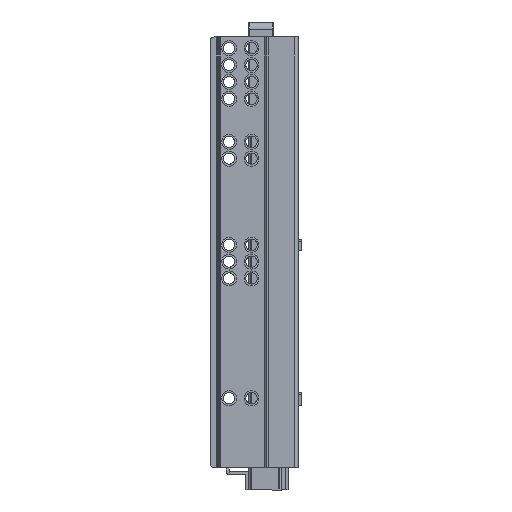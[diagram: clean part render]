
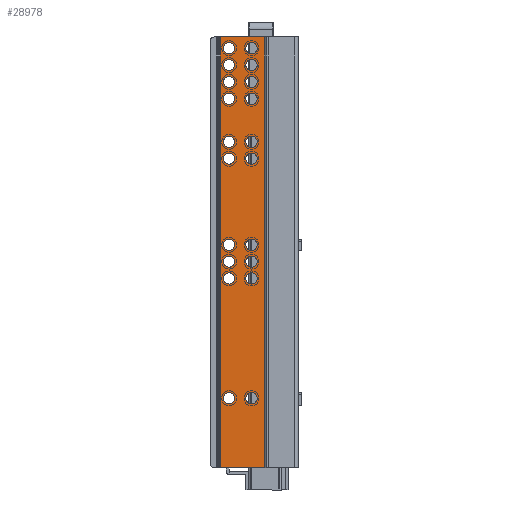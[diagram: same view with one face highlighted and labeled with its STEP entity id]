
A CAD part, left-side view. The second image highlights one B-rep face of the part: STEP entity #28978.
In plain terms, the highlighted planar face has unit normal (-1, 0, 0).
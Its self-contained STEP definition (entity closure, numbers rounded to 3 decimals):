
#837=FACE_BOUND('',#5971,.T.);
#838=FACE_BOUND('',#5972,.T.);
#839=FACE_BOUND('',#5973,.T.);
#840=FACE_BOUND('',#5974,.T.);
#841=FACE_BOUND('',#5975,.T.);
#842=FACE_BOUND('',#5976,.T.);
#843=FACE_BOUND('',#5977,.T.);
#844=FACE_BOUND('',#5978,.T.);
#845=FACE_BOUND('',#5979,.T.);
#846=FACE_BOUND('',#5980,.T.);
#847=FACE_BOUND('',#5981,.T.);
#848=FACE_BOUND('',#5982,.T.);
#849=FACE_BOUND('',#5983,.T.);
#850=FACE_BOUND('',#5984,.T.);
#851=FACE_BOUND('',#5985,.T.);
#852=FACE_BOUND('',#5986,.T.);
#853=FACE_BOUND('',#5987,.T.);
#854=FACE_BOUND('',#5988,.T.);
#855=FACE_BOUND('',#5989,.T.);
#856=FACE_BOUND('',#5990,.T.);
#1108=CIRCLE('',#30845,3.);
#1111=CIRCLE('',#30850,3.);
#1114=CIRCLE('',#30855,3.);
#1117=CIRCLE('',#30860,3.);
#1120=CIRCLE('',#30865,3.);
#1123=CIRCLE('',#30870,3.);
#1126=CIRCLE('',#30875,3.);
#1129=CIRCLE('',#30880,3.);
#1132=CIRCLE('',#30885,3.);
#1135=CIRCLE('',#30890,3.);
#1138=CIRCLE('',#30895,3.);
#1141=CIRCLE('',#30900,3.);
#1144=CIRCLE('',#30905,3.);
#1147=CIRCLE('',#30910,3.);
#1150=CIRCLE('',#30915,3.);
#1153=CIRCLE('',#30920,3.);
#1156=CIRCLE('',#30925,3.);
#1159=CIRCLE('',#30930,3.);
#1162=CIRCLE('',#30935,3.);
#1165=CIRCLE('',#30940,3.);
#4076=FACE_OUTER_BOUND('',#5970,.T.);
#5970=EDGE_LOOP('',(#18675,#18676,#18677,#18678));
#5971=EDGE_LOOP('',(#18679));
#5972=EDGE_LOOP('',(#18680));
#5973=EDGE_LOOP('',(#18681));
#5974=EDGE_LOOP('',(#18682));
#5975=EDGE_LOOP('',(#18683));
#5976=EDGE_LOOP('',(#18684));
#5977=EDGE_LOOP('',(#18685));
#5978=EDGE_LOOP('',(#18686));
#5979=EDGE_LOOP('',(#18687));
#5980=EDGE_LOOP('',(#18688));
#5981=EDGE_LOOP('',(#18689));
#5982=EDGE_LOOP('',(#18690));
#5983=EDGE_LOOP('',(#18691));
#5984=EDGE_LOOP('',(#18692));
#5985=EDGE_LOOP('',(#18693));
#5986=EDGE_LOOP('',(#18694));
#5987=EDGE_LOOP('',(#18695));
#5988=EDGE_LOOP('',(#18696));
#5989=EDGE_LOOP('',(#18697));
#5990=EDGE_LOOP('',(#18698));
#8052=LINE('',#44872,#9962);
#8059=LINE('',#45057,#9969);
#8072=LINE('',#45101,#9982);
#8082=LINE('',#45118,#9992);
#9962=VECTOR('',#34953,23.586);
#9969=VECTOR('',#35180,230.);
#9982=VECTOR('',#35219,23.586);
#9992=VECTOR('',#35243,230.);
#11874=VERTEX_POINT('',#44869);
#11875=VERTEX_POINT('',#44871);
#11884=VERTEX_POINT('',#44898);
#11887=VERTEX_POINT('',#44906);
#11890=VERTEX_POINT('',#44914);
#11893=VERTEX_POINT('',#44922);
#11896=VERTEX_POINT('',#44930);
#11899=VERTEX_POINT('',#44938);
#11902=VERTEX_POINT('',#44946);
#11905=VERTEX_POINT('',#44954);
#11908=VERTEX_POINT('',#44962);
#11911=VERTEX_POINT('',#44970);
#11914=VERTEX_POINT('',#44978);
#11917=VERTEX_POINT('',#44986);
#11920=VERTEX_POINT('',#44994);
#11923=VERTEX_POINT('',#45002);
#11926=VERTEX_POINT('',#45010);
#11929=VERTEX_POINT('',#45018);
#11932=VERTEX_POINT('',#45026);
#11935=VERTEX_POINT('',#45034);
#11938=VERTEX_POINT('',#45042);
#11941=VERTEX_POINT('',#45050);
#11943=VERTEX_POINT('',#45055);
#11961=VERTEX_POINT('',#45099);
#14326=EDGE_CURVE('',#11874,#11875,#8052,.T.);
#14339=EDGE_CURVE('',#11884,#11884,#1108,.T.);
#14342=EDGE_CURVE('',#11887,#11887,#1111,.T.);
#14345=EDGE_CURVE('',#11890,#11890,#1114,.T.);
#14348=EDGE_CURVE('',#11893,#11893,#1117,.T.);
#14351=EDGE_CURVE('',#11896,#11896,#1120,.T.);
#14354=EDGE_CURVE('',#11899,#11899,#1123,.T.);
#14357=EDGE_CURVE('',#11902,#11902,#1126,.T.);
#14360=EDGE_CURVE('',#11905,#11905,#1129,.T.);
#14363=EDGE_CURVE('',#11908,#11908,#1132,.T.);
#14366=EDGE_CURVE('',#11911,#11911,#1135,.T.);
#14369=EDGE_CURVE('',#11914,#11914,#1138,.T.);
#14372=EDGE_CURVE('',#11917,#11917,#1141,.T.);
#14375=EDGE_CURVE('',#11920,#11920,#1144,.T.);
#14378=EDGE_CURVE('',#11923,#11923,#1147,.T.);
#14381=EDGE_CURVE('',#11926,#11926,#1150,.T.);
#14384=EDGE_CURVE('',#11929,#11929,#1153,.T.);
#14387=EDGE_CURVE('',#11932,#11932,#1156,.T.);
#14390=EDGE_CURVE('',#11935,#11935,#1159,.T.);
#14393=EDGE_CURVE('',#11938,#11938,#1162,.T.);
#14396=EDGE_CURVE('',#11941,#11941,#1165,.T.);
#14399=EDGE_CURVE('',#11943,#11874,#8059,.T.);
#14422=EDGE_CURVE('',#11961,#11943,#8072,.T.);
#14432=EDGE_CURVE('',#11875,#11961,#8082,.T.);
#18675=ORIENTED_EDGE('',*,*,#14399,.F.);
#18676=ORIENTED_EDGE('',*,*,#14422,.F.);
#18677=ORIENTED_EDGE('',*,*,#14432,.F.);
#18678=ORIENTED_EDGE('',*,*,#14326,.F.);
#18679=ORIENTED_EDGE('',*,*,#14339,.T.);
#18680=ORIENTED_EDGE('',*,*,#14342,.T.);
#18681=ORIENTED_EDGE('',*,*,#14345,.T.);
#18682=ORIENTED_EDGE('',*,*,#14348,.T.);
#18683=ORIENTED_EDGE('',*,*,#14351,.T.);
#18684=ORIENTED_EDGE('',*,*,#14354,.T.);
#18685=ORIENTED_EDGE('',*,*,#14357,.T.);
#18686=ORIENTED_EDGE('',*,*,#14360,.T.);
#18687=ORIENTED_EDGE('',*,*,#14363,.T.);
#18688=ORIENTED_EDGE('',*,*,#14366,.T.);
#18689=ORIENTED_EDGE('',*,*,#14369,.T.);
#18690=ORIENTED_EDGE('',*,*,#14372,.T.);
#18691=ORIENTED_EDGE('',*,*,#14375,.T.);
#18692=ORIENTED_EDGE('',*,*,#14378,.T.);
#18693=ORIENTED_EDGE('',*,*,#14381,.T.);
#18694=ORIENTED_EDGE('',*,*,#14384,.T.);
#18695=ORIENTED_EDGE('',*,*,#14387,.T.);
#18696=ORIENTED_EDGE('',*,*,#14390,.T.);
#18697=ORIENTED_EDGE('',*,*,#14393,.T.);
#18698=ORIENTED_EDGE('',*,*,#14396,.T.);
#26625=PLANE('',#30963);
#28978=ADVANCED_FACE('',(#4076,#837,#838,#839,#840,#841,#842,#843,#844,
#845,#846,#847,#848,#849,#850,#851,#852,#853,#854,#855,#856),#26625,.T.);
#30845=AXIS2_PLACEMENT_3D('',#44899,#34983,#34984);
#30850=AXIS2_PLACEMENT_3D('',#44907,#34993,#34994);
#30855=AXIS2_PLACEMENT_3D('',#44915,#35003,#35004);
#30860=AXIS2_PLACEMENT_3D('',#44923,#35013,#35014);
#30865=AXIS2_PLACEMENT_3D('',#44931,#35023,#35024);
#30870=AXIS2_PLACEMENT_3D('',#44939,#35033,#35034);
#30875=AXIS2_PLACEMENT_3D('',#44947,#35043,#35044);
#30880=AXIS2_PLACEMENT_3D('',#44955,#35053,#35054);
#30885=AXIS2_PLACEMENT_3D('',#44963,#35063,#35064);
#30890=AXIS2_PLACEMENT_3D('',#44971,#35073,#35074);
#30895=AXIS2_PLACEMENT_3D('',#44979,#35083,#35084);
#30900=AXIS2_PLACEMENT_3D('',#44987,#35093,#35094);
#30905=AXIS2_PLACEMENT_3D('',#44995,#35103,#35104);
#30910=AXIS2_PLACEMENT_3D('',#45003,#35113,#35114);
#30915=AXIS2_PLACEMENT_3D('',#45011,#35123,#35124);
#30920=AXIS2_PLACEMENT_3D('',#45019,#35133,#35134);
#30925=AXIS2_PLACEMENT_3D('',#45027,#35143,#35144);
#30930=AXIS2_PLACEMENT_3D('',#45035,#35153,#35154);
#30935=AXIS2_PLACEMENT_3D('',#45043,#35163,#35164);
#30940=AXIS2_PLACEMENT_3D('',#45051,#35173,#35174);
#30963=AXIS2_PLACEMENT_3D('',#45120,#35245,#35246);
#34953=DIRECTION('',(0.,-1.,0.));
#34983=DIRECTION('center_axis',(1.,0.,0.));
#34984=DIRECTION('ref_axis',(0.,0.,-1.));
#34993=DIRECTION('center_axis',(1.,0.,0.));
#34994=DIRECTION('ref_axis',(0.,0.,-1.));
#35003=DIRECTION('center_axis',(1.,0.,0.));
#35004=DIRECTION('ref_axis',(0.,0.,-1.));
#35013=DIRECTION('center_axis',(1.,0.,0.));
#35014=DIRECTION('ref_axis',(0.,0.,-1.));
#35023=DIRECTION('center_axis',(1.,0.,0.));
#35024=DIRECTION('ref_axis',(0.,0.,-1.));
#35033=DIRECTION('center_axis',(1.,0.,0.));
#35034=DIRECTION('ref_axis',(0.,0.,-1.));
#35043=DIRECTION('center_axis',(1.,0.,0.));
#35044=DIRECTION('ref_axis',(0.,0.,-1.));
#35053=DIRECTION('center_axis',(1.,0.,0.));
#35054=DIRECTION('ref_axis',(0.,0.,-1.));
#35063=DIRECTION('center_axis',(1.,0.,0.));
#35064=DIRECTION('ref_axis',(0.,0.,-1.));
#35073=DIRECTION('center_axis',(1.,0.,0.));
#35074=DIRECTION('ref_axis',(0.,0.,-1.));
#35083=DIRECTION('center_axis',(1.,0.,0.));
#35084=DIRECTION('ref_axis',(0.,0.,-1.));
#35093=DIRECTION('center_axis',(1.,0.,0.));
#35094=DIRECTION('ref_axis',(0.,0.,-1.));
#35103=DIRECTION('center_axis',(1.,0.,0.));
#35104=DIRECTION('ref_axis',(0.,0.,-1.));
#35113=DIRECTION('center_axis',(1.,0.,0.));
#35114=DIRECTION('ref_axis',(0.,0.,-1.));
#35123=DIRECTION('center_axis',(1.,0.,0.));
#35124=DIRECTION('ref_axis',(0.,0.,-1.));
#35133=DIRECTION('center_axis',(1.,0.,0.));
#35134=DIRECTION('ref_axis',(0.,0.,-1.));
#35143=DIRECTION('center_axis',(1.,0.,0.));
#35144=DIRECTION('ref_axis',(0.,0.,-1.));
#35153=DIRECTION('center_axis',(1.,0.,0.));
#35154=DIRECTION('ref_axis',(0.,0.,-1.));
#35163=DIRECTION('center_axis',(1.,0.,0.));
#35164=DIRECTION('ref_axis',(0.,0.,-1.));
#35173=DIRECTION('center_axis',(1.,0.,0.));
#35174=DIRECTION('ref_axis',(0.,0.,-1.));
#35180=DIRECTION('',(0.,0.,1.));
#35219=DIRECTION('',(0.,1.,0.));
#35243=DIRECTION('',(0.,0.,-1.));
#35245=DIRECTION('center_axis',(-1.,0.,0.));
#35246=DIRECTION('ref_axis',(0.,1.,0.));
#44869=CARTESIAN_POINT('',(1.,41.793,0.));
#44871=CARTESIAN_POINT('',(1.,18.207,0.));
#44872=CARTESIAN_POINT('',(1.,42.,0.));
#44898=CARTESIAN_POINT('',(1.,37.,-190.));
#44899=CARTESIAN_POINT('Origin',(1.,37.,-193.));
#44906=CARTESIAN_POINT('',(1.,25.,-190.));
#44907=CARTESIAN_POINT('Origin',(1.,25.,-193.));
#44914=CARTESIAN_POINT('',(1.,37.,-126.));
#44915=CARTESIAN_POINT('Origin',(1.,37.,-129.));
#44922=CARTESIAN_POINT('',(1.,37.,-117.));
#44923=CARTESIAN_POINT('Origin',(1.,37.,-120.));
#44930=CARTESIAN_POINT('',(1.,37.,-108.));
#44931=CARTESIAN_POINT('Origin',(1.,37.,-111.));
#44938=CARTESIAN_POINT('',(1.,25.,-108.));
#44939=CARTESIAN_POINT('Origin',(1.,25.,-111.));
#44946=CARTESIAN_POINT('',(1.,25.,-117.));
#44947=CARTESIAN_POINT('Origin',(1.,25.,-120.));
#44954=CARTESIAN_POINT('',(1.,25.,-126.));
#44955=CARTESIAN_POINT('Origin',(1.,25.,-129.));
#44962=CARTESIAN_POINT('',(1.,25.,-53.));
#44963=CARTESIAN_POINT('Origin',(1.,25.,-56.));
#44970=CARTESIAN_POINT('',(1.,37.,-53.));
#44971=CARTESIAN_POINT('Origin',(1.,37.,-56.));
#44978=CARTESIAN_POINT('',(1.,37.,-30.));
#44979=CARTESIAN_POINT('Origin',(1.,37.,-33.));
#44986=CARTESIAN_POINT('',(1.,37.,-21.));
#44987=CARTESIAN_POINT('Origin',(1.,37.,-24.));
#44994=CARTESIAN_POINT('',(1.,37.,-12.));
#44995=CARTESIAN_POINT('Origin',(1.,37.,-15.));
#45002=CARTESIAN_POINT('',(1.,37.,-3.));
#45003=CARTESIAN_POINT('Origin',(1.,37.,-6.));
#45010=CARTESIAN_POINT('',(1.,25.,-3.));
#45011=CARTESIAN_POINT('Origin',(1.,25.,-6.));
#45018=CARTESIAN_POINT('',(1.,25.,-12.));
#45019=CARTESIAN_POINT('Origin',(1.,25.,-15.));
#45026=CARTESIAN_POINT('',(1.,25.,-21.));
#45027=CARTESIAN_POINT('Origin',(1.,25.,-24.));
#45034=CARTESIAN_POINT('',(1.,25.,-30.));
#45035=CARTESIAN_POINT('Origin',(1.,25.,-33.));
#45042=CARTESIAN_POINT('',(1.,37.,-62.));
#45043=CARTESIAN_POINT('Origin',(1.,37.,-65.));
#45050=CARTESIAN_POINT('',(1.,25.,-62.));
#45051=CARTESIAN_POINT('Origin',(1.,25.,-65.));
#45055=CARTESIAN_POINT('',(1.,41.793,-230.));
#45057=CARTESIAN_POINT('',(1.,41.793,0.));
#45099=CARTESIAN_POINT('',(1.,18.207,-230.));
#45101=CARTESIAN_POINT('',(1.,42.,-230.));
#45118=CARTESIAN_POINT('',(1.,18.207,0.));
#45120=CARTESIAN_POINT('Origin',(1.,18.,0.));
